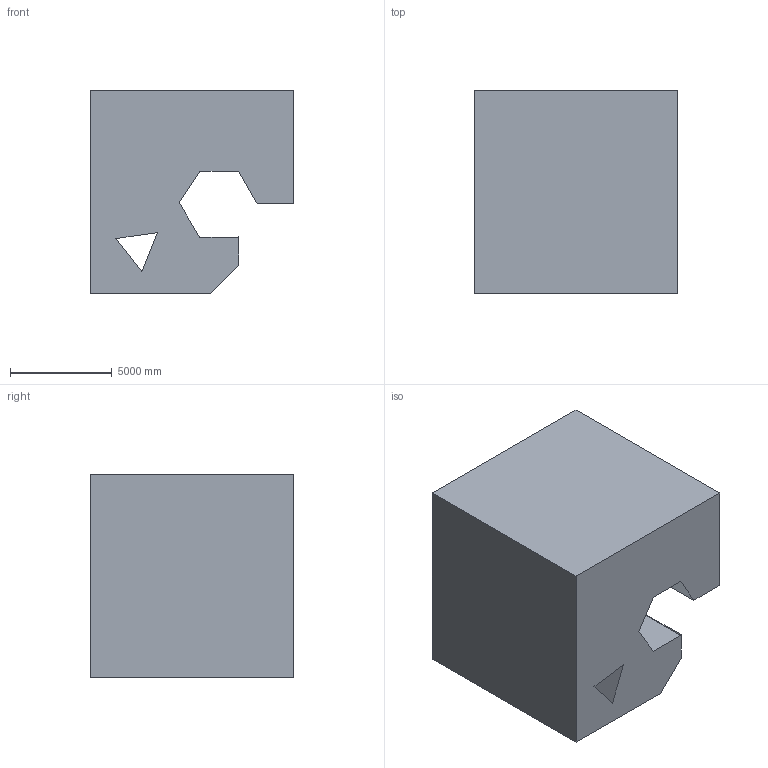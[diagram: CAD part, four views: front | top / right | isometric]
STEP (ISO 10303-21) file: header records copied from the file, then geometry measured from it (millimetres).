
FILE_DESCRIPTION (( 'STEP AP203' ), '1' );
FILE_NAME ('33.STEP', '2022-08-30T14:06:20', ( 'user' ), ( '' ), 'SwSTEP 2.0', 'SolidWorks 2021', '' );
FILE_SCHEMA (( 'CONFIG_CONTROL_DESIGN' ));
Length unit declared in the file: centimetre
Products named in the file (1): 33
Bounding box: 10000 x 10000 x 10000 mm (x, y, z)
Volume: 766140615486.1 mm3; surface area: 677525816.2 mm2
Topology: 1 solids, 1 shells, 18 faces, 48 edges, 32 vertices
Faces by surface type: plane 18
Entity records: 633 total; most frequent: CARTESIAN_POINT 99, ORIENTED_EDGE 96, DIRECTION 86, EDGE_CURVE 48, VECTOR 48, LINE 48, VERTEX_POINT 32, EDGE_LOOP 20
